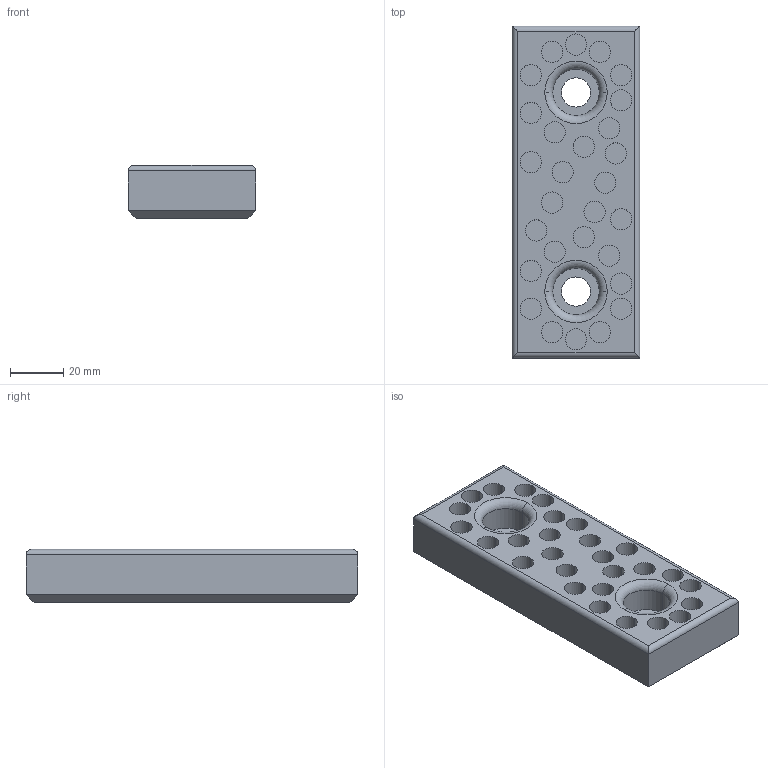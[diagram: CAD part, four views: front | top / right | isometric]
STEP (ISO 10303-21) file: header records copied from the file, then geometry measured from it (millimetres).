
FILE_DESCRIPTION (( 'STEP AP214' ), '1' );
FILE_NAME ('SW224-02-48x125.STEP', '2020-10-19T07:44:43', ( 'August' ), ( '' ), 'SwSTEP 2.0', 'SolidWorks 2018', '' );
FILE_SCHEMA (( 'AUTOMOTIVE_DESIGN' ));
Length unit declared in the file: millimetre
Products named in the file (1): SW224-02-48x125
Bounding box: 48 x 125 x 20 mm (x, y, z)
Volume: 101093 mm3; surface area: 24141.7 mm2
Topology: 1 solids, 1 shells, 112 faces, 228 edges, 148 vertices
Faces by surface type: cylinder 68, plane 40, torus 4
Entity records: 3510 total; most frequent: CARTESIAN_POINT 673, DIRECTION 582, ORIENTED_EDGE 456, AXIS2_PLACEMENT_3D 249, EDGE_CURVE 228, VERTEX_POINT 148, EDGE_LOOP 146, CIRCLE 136
